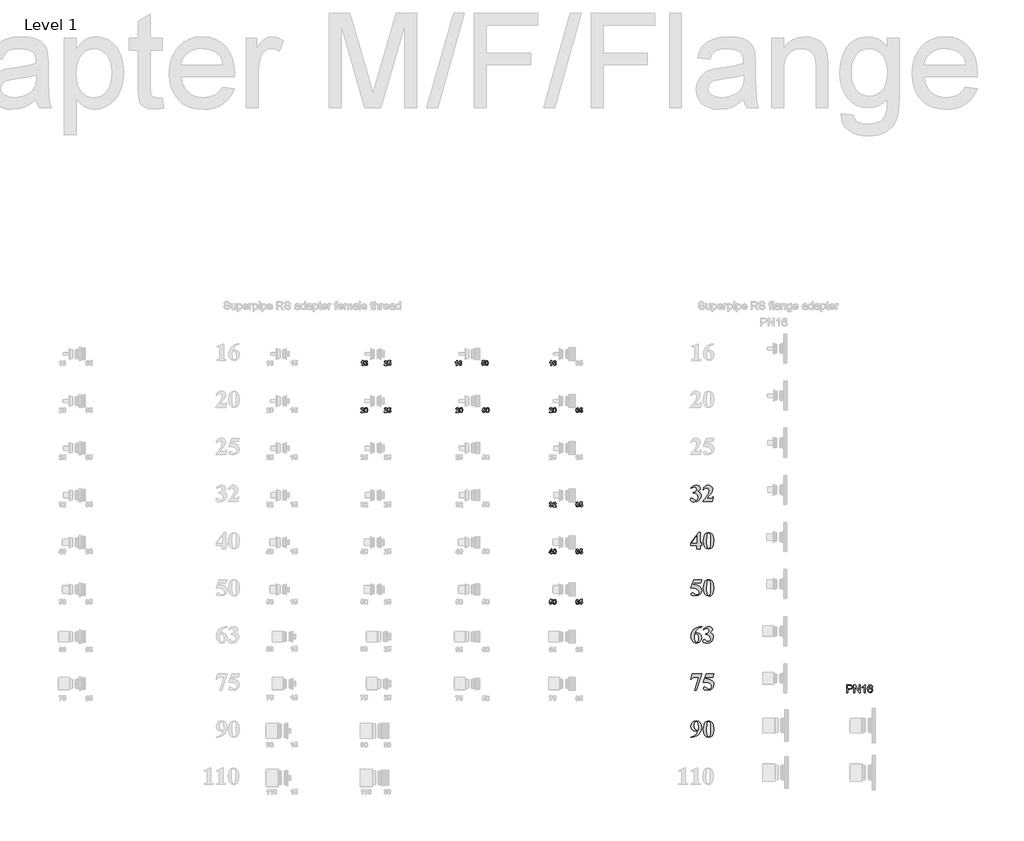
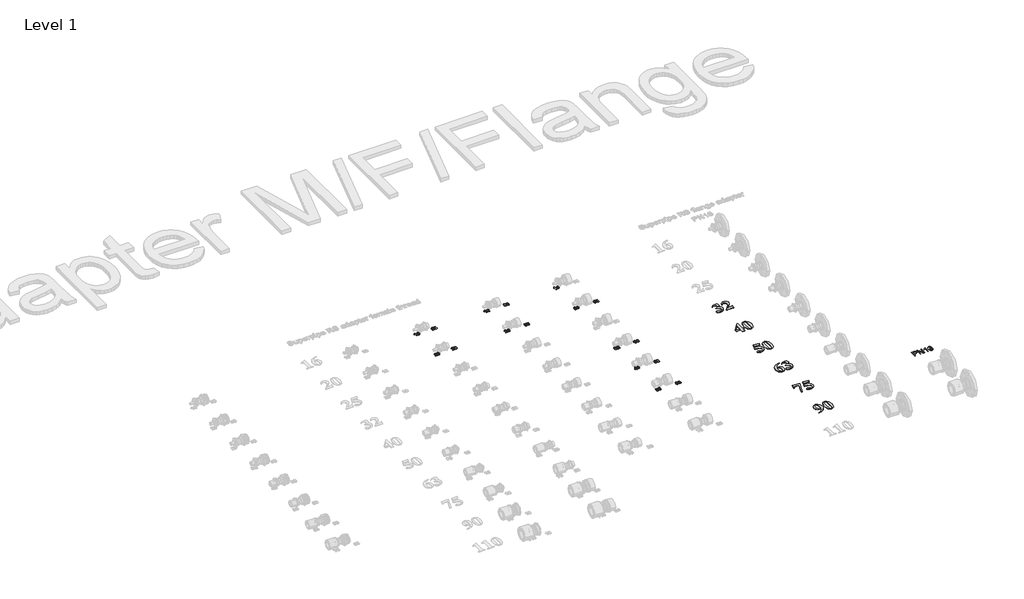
# One storey, part 47 of 57: 24 proxies.
"""IFC4 building model written with IfcOpenShell, lengths in millimetres."""

from ifc_helpers import new_model, si_unit, frame, origin, place, context, project, spatial, polyline, outline, extrude, element, save

model = new_model("IFC4")

# Units and contexts
model_context = context("Model", 3, world=origin())
ifc_project = project(units=[si_unit("LENGTHUNIT", "METRE", prefix="MILLI")], contexts=[model_context])

# Site, building, storey
site = spatial("IfcSite", under=ifc_project)
building = spatial("IfcBuilding", under=site)
storey = spatial("IfcBuildingStorey", under=building, Name="Level 1", Elevation=27.3876384)

# Proxies
placement = place(None, origin())
element("IfcBuildingElementProxy", 1, Name="100mm Arial", ObjectType="100mm Arial", at=placement, inside=storey, context=model_context, shape_type="SweptSolid", body=[
    extrude(outline(polyline([(34319.1420734, 17762.0336893), (34319.1420734, 17763.7786156), (34331.5746733, 17768.5907951), (34337.5592251, 17775.379649), (34340.0811889, 17784.6359377), (34335.3780673, 17795.773475), (34323.667976, 17800.4220677), (34313.6073853, 17797.9887135), (34305.1826631, 17790.6886508), (34303.4377368, 17791.6974363), (34317.8470109, 17806.0794459), (34337.436535, 17810.8916255), (34347.4869015, 17809.4397923), (34355.6083065, 17805.0842927), (34360.9759997, 17798.7861993), (34362.7652307, 17791.506585), (34358.7573531, 17781.7322713), (34346.1884309, 17773.4575036), (34362.4107926, 17762.1700117), (34366.6027053, 17754.6109365), (34368.0000096, 17745.3478316), (34365.0077337, 17729.585558), (34356.0309058, 17716.3793288), (34342.0305988, 17707.4331734), (34323.9678852, 17704.4511217), (34312.3668518, 17705.7325519), (34304.3919934, 17709.5768427), (34299.9478842, 17718.8740281), (34302.5243769, 17725.9491589), (34308.4816644, 17728.8800898), (34313.3347406, 17727.7895108), (34322.1956944, 17721.0551859), (34336.4822784, 17714.9206794), (34346.4065467, 17719.3784208), (34350.5507467, 17730.679545), (34348.5502159, 17740.6890148), (34342.5486238, 17749.8873665), (34332.6959247, 17757.3203435), (34319.1420734, 17762.0336893)])), frame((0.0, 0.0, 27.3876384), z_axis=(0.0, 0.0, 1.0), x_axis=(1.0, 0.0, 0.0)), (0.0, 0.0, 1.0), 2.0),
    extrude(outline(polyline([(34440.3326573, 17706.196048), (34378.4695674, 17706.196048), (34378.4695674, 17707.9409743), (34414.2405563, 17752.5456526), (34420.3477984, 17774.9297852), (34415.1266517, 17788.166687), (34402.3805104, 17793.4423626), (34391.3929277, 17790.5114317), (34383.1863212, 17781.718639), (34380.3780805, 17782.7274246), (34385.6367158, 17795.2281856), (34393.0696928, 17803.9937137), (34402.2475961, 17809.1671476), (34412.7410103, 17810.8916255), (34427.2729746, 17807.3063472), (34437.5653133, 17797.4911369), (34441.2869139, 17785.80831), (34435.7794903, 17765.6598643), (34423.7763059, 17749.1171451), (34402.871271, 17727.1351635), (34424.8464365, 17727.1351635), (34435.3841554, 17727.7349819), (34439.392033, 17729.7798174), (34443.5226007, 17735.8597949), (34446.5216927, 17735.8597949), (34440.3326573, 17706.196048)])), frame((0.0, 0.0, 27.3876384), z_axis=(0.0, 0.0, 1.0), x_axis=(1.0, 0.0, 0.0)), (0.0, 0.0, 1.0), 2.0),
])
element("IfcBuildingElementProxy", 2, Name="100mm Arial", ObjectType="100mm Arial", at=placement, inside=storey, context=model_context, shape_type="SweptSolid", body=[
    extrude(outline(polyline([(34303.4377368, 17444.5844264), (34352.7046401, 17510.8916255), (34362.7652307, 17510.8916255), (34362.7652307, 17444.5844264), (34371.4898622, 17444.5844264), (34371.4898622, 17428.8800898), (34362.7652307, 17428.8800898), (34362.7652307, 17406.196048), (34340.0811889, 17406.196048), (34340.0811889, 17428.8800898), (34303.4377368, 17428.8800898), (34303.4377368, 17444.5844264)]), holes=[polyline([(34308.7270446, 17444.5844264), (34340.0811889, 17444.5844264), (34340.0811889, 17486.7625666), (34308.7270446, 17444.5844264)])]), frame((0.0, 0.0, 27.3876384), z_axis=(0.0, 0.0, 1.0), x_axis=(1.0, 0.0, 0.0)), (0.0, 0.0, 1.0), 2.0),
    extrude(outline(polyline([(34450.0115453, 17457.6713736), (34445.5674362, 17429.0982056), (34438.4514086, 17415.7658781), (34428.3090246, 17407.5047427), (34415.9582182, 17404.4511217), (34402.1760269, 17408.213619), (34391.2838698, 17419.0103504), (34385.3129502, 17432.6425871), (34381.9594199, 17456.4717368), (34386.7852317, 17487.0624758), (34391.7746303, 17497.2491647), (34398.8361289, 17504.7434868), (34415.9582182, 17510.8916255), (34433.0939396, 17504.8252802), (34444.8040309, 17488.5074929), (34450.0115453, 17457.6713736)]), holes=[polyline([(34427.3275035, 17457.6713736), (34426.9730654, 17489.0255179), (34422.8561299, 17503.2303085), (34415.9036892, 17505.6568466), (34410.0690919, 17503.8301269), (34405.7613051, 17494.505677), (34404.6434617, 17447.8561632), (34406.3611236, 17418.6831767), (34410.0554597, 17411.498988), (34416.4217142, 17409.6859006), (34422.8561299, 17412.1124387), (34426.9730654, 17425.1721214), (34427.3275035, 17457.6713736)])]), frame((0.0, 0.0, 27.3876384), z_axis=(0.0, 0.0, 1.0), x_axis=(1.0, 0.0, 0.0)), (0.0, 0.0, 1.0), 2.0),
])
element("IfcBuildingElementProxy", 3, Name="100mm Arial", ObjectType="100mm Arial", at=placement, inside=storey, context=model_context, shape_type="SweptSolid", body=[
    extrude(outline(polyline([(34322.631926, 17209.1466992), (34371.4898622, 17209.1466992), (34364.510157, 17188.2075837), (34320.2326524, 17188.2075837), (34317.042709, 17179.4829522), (34341.3353547, 17175.7068227), (34359.3026426, 17166.3414761), (34368.4430573, 17155.0880647), (34371.4898622, 17141.394483), (34365.7915873, 17122.6910543), (34350.0736184, 17109.0042887), (34328.0848207, 17104.4511217), (34308.2635486, 17109.249669), (34303.4377368, 17116.9655149), (34305.9597006, 17122.8410089), (34311.8351946, 17125.3902372), (34317.9697011, 17124.0815425), (34328.6028457, 17117.1836307), (34336.7821877, 17112.4123479), (34342.2078178, 17111.4308268), (34353.0590782, 17115.9976261), (34357.5304518, 17126.9715766), (34354.1360249, 17139.0088416), (34343.9527441, 17148.5650395), (34328.5960295, 17154.8017878), (34309.6813012, 17156.8807039), (34303.4377368, 17156.7989104), (34322.631926, 17209.1466992)])), frame((0.0, 0.0, 27.3876384), z_axis=(0.0, 0.0, 1.0), x_axis=(1.0, 0.0, 0.0)), (0.0, 0.0, 1.0), 2.0),
    extrude(outline(polyline([(34450.0115453, 17157.6713736), (34445.5674362, 17129.0982056), (34438.4514086, 17115.7658781), (34428.3090246, 17107.5047427), (34415.9582182, 17104.4511217), (34402.1760269, 17108.213619), (34391.2838698, 17119.0103504), (34385.3129502, 17132.6425871), (34381.9594199, 17156.4717368), (34386.7852317, 17187.0624758), (34391.7746303, 17197.2491647), (34398.8361289, 17204.7434868), (34415.9582182, 17210.8916255), (34433.0939396, 17204.8252802), (34444.8040309, 17188.5074929), (34450.0115453, 17157.6713736)]), holes=[polyline([(34427.3275035, 17157.6713736), (34426.9730654, 17189.0255179), (34422.8561299, 17203.2303085), (34415.9036892, 17205.6568466), (34410.0690919, 17203.8301269), (34405.7613051, 17194.505677), (34404.6434617, 17147.8561632), (34406.3611236, 17118.6831767), (34410.0554597, 17111.498988), (34416.4217142, 17109.6859006), (34422.8561299, 17112.1124387), (34426.9730654, 17125.1721214), (34427.3275035, 17157.6713736)])]), frame((0.0, 0.0, 27.3876384), z_axis=(0.0, 0.0, 1.0), x_axis=(1.0, 0.0, 0.0)), (0.0, 0.0, 1.0), 2.0),
])
element("IfcBuildingElementProxy", 4, Name="100mm Arial", ObjectType="100mm Arial", at=placement, inside=storey, context=model_context, shape_type="SweptSolid", body=[
    extrude(outline(polyline([(34371.4898622, 16910.8916255), (34371.4898622, 16909.1466992), (34349.4738, 16900.0676296), (34336.3595883, 16886.5717153), (34328.9027549, 16866.91403), (34334.4647074, 16869.4496261), (34344.4435047, 16870.7583208), (34355.0664251, 16868.7032611), (34363.760384, 16862.5380821), (34369.5574926, 16852.8285215), (34371.4898622, 16840.1403172), (34367.2502366, 16821.8458556), (34355.2266039, 16808.9906565), (34338.5816429, 16804.4511217), (34320.7779418, 16809.6313716), (34308.0181683, 16824.804051), (34303.4377368, 16846.520204), (34305.5405093, 16863.1481247), (34311.8488268, 16878.5150634), (34322.0252915, 16891.7519652), (34335.7325054, 16901.989775), (34352.4081389, 16908.5843694), (34371.4898622, 16910.8916255)]), holes=[polyline([(34327.8667049, 16861.2975485), (34326.1217786, 16846.1112369), (34328.3165687, 16826.0582168), (34334.3283851, 16812.4668768), (34340.7900652, 16809.6859006), (34347.5652869, 16813.7074104), (34350.5507467, 16830.0524621), (34349.2284197, 16847.5698862), (34345.2614389, 16858.6801591), (34336.0733113, 16863.7786156), (34327.8667049, 16861.2975485)])]), frame((0.0, 0.0, 27.3876384), z_axis=(0.0, 0.0, 1.0), x_axis=(1.0, 0.0, 0.0)), (0.0, 0.0, 1.0), 2.0),
    extrude(outline(polyline([(34397.6637566, 16862.0336893), (34397.6637566, 16863.7786156), (34410.0963564, 16868.5907951), (34416.0809083, 16875.379649), (34418.6028721, 16884.6359377), (34413.8997504, 16895.773475), (34402.1896591, 16900.4220677), (34392.1290685, 16897.9887135), (34383.7043462, 16890.6886508), (34381.9594199, 16891.6974363), (34396.3686941, 16906.0794459), (34415.9582182, 16910.8916255), (34426.0085846, 16909.4397923), (34434.1299896, 16905.0842927), (34439.4976828, 16898.7861993), (34441.2869139, 16891.506585), (34437.2790363, 16881.7322713), (34424.7101141, 16873.4575036), (34440.9324757, 16862.1700117), (34445.1243885, 16854.6109365), (34446.5216927, 16845.3478316), (34443.5294168, 16829.585558), (34434.552589, 16816.3793288), (34420.5522819, 16807.4331734), (34402.4895683, 16804.4511217), (34390.8885349, 16805.7325519), (34382.9136765, 16809.5768427), (34378.4695674, 16818.8740281), (34381.0460601, 16825.9491589), (34387.0033475, 16828.8800898), (34391.8564237, 16827.7895108), (34400.7173776, 16821.0551859), (34415.0039616, 16814.9206794), (34424.9282299, 16819.3784208), (34429.0724298, 16830.679545), (34427.0718991, 16840.6890148), (34421.0703069, 16849.8873665), (34411.2176079, 16857.3203435), (34397.6637566, 16862.0336893)])), frame((0.0, 0.0, 27.3876384), z_axis=(0.0, 0.0, 1.0), x_axis=(1.0, 0.0, 0.0)), (0.0, 0.0, 1.0), 2.0),
])
element("IfcBuildingElementProxy", 5, Name="100mm Arial", ObjectType="100mm Arial", at=placement, inside=storey, context=model_context, shape_type="SweptSolid", body=[
    extrude(outline(polyline([(34326.0945141, 16506.196048), (34354.5040953, 16588.2075837), (34332.8561035, 16588.2075837), (34313.7437077, 16584.8540535), (34306.3550354, 16575.9930996), (34303.4377368, 16575.9930996), (34310.935467, 16609.1466992), (34372.7167635, 16609.1466992), (34336.2914271, 16506.196048), (34326.0945141, 16506.196048)])), frame((0.0, 0.0, 27.3876384), z_axis=(0.0, 0.0, 1.0), x_axis=(1.0, 0.0, 0.0)), (0.0, 0.0, 1.0), 2.0),
    extrude(outline(polyline([(34401.1536091, 16609.1466992), (34450.0115453, 16609.1466992), (34443.0318402, 16588.2075837), (34398.7543355, 16588.2075837), (34395.5643921, 16579.4829522), (34419.8570378, 16575.7068227), (34437.8243258, 16566.3414761), (34446.9647404, 16555.0880647), (34450.0115453, 16541.394483), (34444.3132704, 16522.6910543), (34428.5953015, 16509.0042887), (34406.6065038, 16504.4511217), (34386.7852317, 16509.249669), (34381.9594199, 16516.9655149), (34384.4813837, 16522.8410089), (34390.3568777, 16525.3902372), (34396.4913842, 16524.0815425), (34407.1245288, 16517.1836307), (34415.3038708, 16512.4123479), (34420.729501, 16511.4308268), (34431.5807614, 16515.9976261), (34436.052135, 16526.9715766), (34432.6577081, 16539.0088416), (34422.4744273, 16548.5650395), (34407.1177127, 16554.8017878), (34388.2029843, 16556.8807039), (34381.9594199, 16556.7989104), (34401.1536091, 16609.1466992)])), frame((0.0, 0.0, 27.3876384), z_axis=(0.0, 0.0, 1.0), x_axis=(1.0, 0.0, 0.0)), (0.0, 0.0, 1.0), 2.0),
])
element("IfcBuildingElementProxy", 6, Name="100mm Arial", ObjectType="100mm Arial", at=placement, inside=storey, context=model_context, shape_type="SweptSolid", body=[
    extrude(outline(polyline([(34303.4377368, 16204.4511217), (34303.4377368, 16206.196048), (34325.6310181, 16214.8116215), (34340.0675567, 16228.9073542), (34347.5243901, 16248.2378658), (34339.1678291, 16245.3887284), (34331.9018469, 16244.5844264), (34320.7097806, 16246.6394861), (34311.5625498, 16252.8046651), (34305.4689401, 16262.5483062), (34303.4377368, 16275.3387523), (34307.7046269, 16293.524156), (34319.8918464, 16306.3384584), (34336.3459561, 16310.8916255), (34353.6588966, 16305.7659045), (34366.6504182, 16290.9203988), (34371.4898622, 16268.7407497), (34369.5268201, 16252.9614358), (34363.6376939, 16237.8501015), (34353.8599721, 16224.5348143), (34340.2311435, 16214.1436419), (34323.2556008, 16207.2559544), (34303.4377368, 16204.4511217)]), holes=[polyline([(34348.8058204, 16253.9634052), (34348.8058204, 16268.7952787), (34345.3159678, 16294.3420902), (34339.454106, 16303.9937137), (34334.0557403, 16305.6568466), (34327.5940601, 16302.4123743), (34324.3768523, 16285.4538719), (34325.7877888, 16267.834206), (34330.0205983, 16256.6898525), (34339.972131, 16251.5641316), (34348.8058204, 16253.9634052)])]), frame((0.0, 0.0, 27.3876384), z_axis=(0.0, 0.0, 1.0), x_axis=(1.0, 0.0, 0.0)), (0.0, 0.0, 1.0), 2.0),
    extrude(outline(polyline([(34450.0115453, 16257.6713736), (34445.5674362, 16229.0982056), (34438.4514086, 16215.7658781), (34428.3090246, 16207.5047427), (34415.9582182, 16204.4511217), (34402.1760269, 16208.213619), (34391.2838698, 16219.0103504), (34385.3129502, 16232.6425871), (34381.9594199, 16256.4717368), (34386.7852317, 16287.0624758), (34391.7746303, 16297.2491647), (34398.8361289, 16304.7434868), (34415.9582182, 16310.8916255), (34433.0939396, 16304.8252802), (34444.8040309, 16288.5074929), (34450.0115453, 16257.6713736)]), holes=[polyline([(34427.3275035, 16257.6713736), (34426.9730654, 16289.0255179), (34422.8561299, 16303.2303085), (34415.9036892, 16305.6568466), (34410.0690919, 16303.8301269), (34405.7613051, 16294.505677), (34404.6434617, 16247.8561632), (34406.3611236, 16218.6831767), (34410.0554597, 16211.498988), (34416.4217142, 16209.6859006), (34422.8561299, 16212.1124387), (34426.9730654, 16225.1721214), (34427.3275035, 16257.6713736)])]), frame((0.0, 0.0, 27.3876384), z_axis=(0.0, 0.0, 1.0), x_axis=(1.0, 0.0, 0.0)), (0.0, 0.0, 1.0), 2.0),
])
element("IfcBuildingElementProxy", 7, Name="30mm Arial", ObjectType="30mm Arial", at=placement, inside=storey, context=model_context, shape_type="SweptSolid", body=[
    extrude(outline(polyline([(32217.1703597, 18573.5788539), (32211.340306, 18573.5788539), (32211.340306, 18595.4567378), (32204.0527389, 18590.5831773), (32204.0527389, 18596.413231), (32208.9187082, 18599.2713237), (32212.5245357, 18604.1866359), (32217.1703597, 18604.1866359), (32217.1703597, 18573.5788539)])), frame((0.0, 0.0, 27.3876384), z_axis=(0.0, 0.0, 1.0), x_axis=(1.0, 0.0, 0.0)), (0.0, 0.0, 1.0), 2.0),
    extrude(outline(polyline([(32244.8631149, 18596.0640351), (32239.0330612, 18595.4415554), (32238.0006558, 18598.0111819), (32235.8295681, 18598.84242), (32232.8386291, 18597.2292867), (32231.2976123, 18590.4541266), (32236.6266458, 18593.0123663), (32242.7869174, 18590.2795286), (32245.3489527, 18583.2272892), (32242.7299832, 18575.8676055), (32235.9965749, 18573.0930161), (32228.754555, 18576.67607), (32225.9154403, 18588.4196808), (32228.8798101, 18600.4897138), (32236.5810985, 18604.1866359), (32242.0847299, 18602.1066428), (32244.8631149, 18596.0640351)]), holes=[polyline([(32231.745494, 18583.3563398), (32233.0056358, 18579.7163519), (32235.8827066, 18578.437232), (32238.4789024, 18579.4848198), (32239.518899, 18582.9236405), (32238.3991946, 18586.5256724), (32235.6018316, 18587.6681504), (32232.8651983, 18586.5750153), (32231.745494, 18583.3563398)])]), frame((0.0, 0.0, 27.3876384), z_axis=(0.0, 0.0, 1.0), x_axis=(1.0, 0.0, 0.0)), (0.0, 0.0, 1.0), 2.0),
])
element("IfcBuildingElementProxy", 8, Name="30mm Arial", ObjectType="30mm Arial", at=placement, inside=storey, context=model_context, shape_type="SweptSolid", body=[
    extrude(outline(polyline([(32370.7787378, 18579.4089076), (32370.7787378, 18573.5788539), (32351.3452254, 18573.5788539), (32353.2050733, 18579.298835), (32359.316002, 18586.4687383), (32363.8251842, 18591.3574813), (32364.9486841, 18594.864623), (32364.0035777, 18597.8138103), (32361.3959951, 18598.84242), (32358.7846169, 18597.8289927), (32357.661117, 18594.4698797), (32351.8310633, 18595.0012648), (32354.9586442, 18602.0497087), (32361.5250458, 18604.1866359), (32368.3115927, 18601.7916074), (32370.7787378, 18595.8362986), (32370.1031196, 18591.979961), (32367.9623968, 18588.146397), (32364.3375912, 18584.3204243), (32361.0088431, 18581.003063), (32359.9157081, 18579.4089076), (32370.7787378, 18579.4089076)])), frame((0.0, 0.0, 27.3876384), z_axis=(0.0, 0.0, 1.0), x_axis=(1.0, 0.0, 0.0)), (0.0, 0.0, 1.0), 2.0),
    extrude(outline(polyline([(32374.6654403, 18582.1948838), (32380.0096562, 18582.8097723), (32381.4975345, 18579.6138705), (32384.3518316, 18578.437232), (32387.4756169, 18579.685987), (32388.7547368, 18583.4474344), (32387.5667115, 18586.9773498), (32384.4732911, 18588.1539882), (32380.2070278, 18585.7247992), (32375.1512781, 18586.4763295), (32378.5521428, 18603.7007981), (32393.1272771, 18603.7007981), (32393.1272771, 18597.8707444), (32383.2662878, 18597.8707444), (32382.0896493, 18592.3063832), (32385.8473011, 18593.4982041), (32392.0417332, 18590.7387972), (32394.5847905, 18583.5764851), (32392.4668413, 18577.0252659), (32384.4429262, 18573.0930161), (32377.7588607, 18575.5601612), (32374.6654403, 18582.1948838)])), frame((0.0, 0.0, 27.3876384), z_axis=(0.0, 0.0, 1.0), x_axis=(1.0, 0.0, 0.0)), (0.0, 0.0, 1.0), 2.0),
])
element("IfcBuildingElementProxy", 9, Name="30mm Arial", ObjectType="30mm Arial", at=placement, inside=storey, context=model_context, shape_type="SweptSolid", body=[
    extrude(outline(polyline([(32817.1703597, 18573.5788539), (32811.340306, 18573.5788539), (32811.340306, 18595.4567378), (32804.0527389, 18590.5831773), (32804.0527389, 18596.413231), (32808.9187082, 18599.2713237), (32812.5245357, 18604.1866359), (32817.1703597, 18604.1866359), (32817.1703597, 18573.5788539)])), frame((0.0, 0.0, 27.3876384), z_axis=(0.0, 0.0, 1.0), x_axis=(1.0, 0.0, 0.0)), (0.0, 0.0, 1.0), 2.0),
    extrude(outline(polyline([(32844.8631149, 18596.0640351), (32839.0330612, 18595.4415554), (32838.0006558, 18598.0111819), (32835.8295681, 18598.84242), (32832.8386291, 18597.2292867), (32831.2976123, 18590.4541266), (32836.6266458, 18593.0123663), (32842.7869174, 18590.2795286), (32845.3489527, 18583.2272892), (32842.7299832, 18575.8676055), (32835.9965749, 18573.0930161), (32828.754555, 18576.67607), (32825.9154403, 18588.4196808), (32828.8798101, 18600.4897138), (32836.5810985, 18604.1866359), (32842.0847299, 18602.1066428), (32844.8631149, 18596.0640351)]), holes=[polyline([(32831.745494, 18583.3563398), (32833.0056358, 18579.7163519), (32835.8827066, 18578.437232), (32838.4789024, 18579.4848198), (32839.518899, 18582.9236405), (32838.3991946, 18586.5256724), (32835.6018316, 18587.6681504), (32832.8651983, 18586.5750153), (32831.745494, 18583.3563398)])]), frame((0.0, 0.0, 27.3876384), z_axis=(0.0, 0.0, 1.0), x_axis=(1.0, 0.0, 0.0)), (0.0, 0.0, 1.0), 2.0),
])
element("IfcBuildingElementProxy", 10, Name="30mm Arial", ObjectType="30mm Arial", at=placement, inside=storey, context=model_context, shape_type="SweptSolid", body=[
    extrude(outline(polyline([(32971.3452254, 18582.1948838), (32976.6894414, 18582.8097723), (32978.1773196, 18579.6138705), (32981.0316168, 18578.437232), (32984.1554021, 18579.685987), (32985.4345219, 18583.4474344), (32984.2464967, 18586.9773498), (32981.1530762, 18588.1539882), (32976.886813, 18585.7247992), (32971.8310633, 18586.4763295), (32975.2319279, 18603.7007981), (32989.8070622, 18603.7007981), (32989.8070622, 18597.8707444), (32979.9460729, 18597.8707444), (32978.7694345, 18592.3063832), (32982.5270863, 18593.4982041), (32988.7215184, 18590.7387972), (32991.2645756, 18583.5764851), (32989.1466264, 18577.0252659), (32981.1227114, 18573.0930161), (32974.4386459, 18575.5601612), (32971.3452254, 18582.1948838)])), frame((0.0, 0.0, 27.3876384), z_axis=(0.0, 0.0, 1.0), x_axis=(1.0, 0.0, 0.0)), (0.0, 0.0, 1.0), 2.0),
    extrude(outline(polyline([(33004.3821965, 18604.1866359), (33011.1763346, 18601.0286902), (33014.0989527, 18588.6322348), (33011.1611522, 18576.2054146), (33004.3821965, 18573.0930161), (32997.3413439, 18576.5090632), (32994.6654403, 18588.6929645), (32997.6032408, 18601.0742375), (33004.3821965, 18604.1866359)]), holes=[polyline([(33004.3821965, 18598.84242), (33002.4388453, 18598.2009623), (33001.1179737, 18595.8970283), (33000.495494, 18588.6322348), (33001.0496528, 18581.6141558), (33002.4502321, 18579.0710985), (33004.3821965, 18578.437232), (33006.3255477, 18579.0786898), (33007.6464193, 18581.3826237), (33008.268899, 18588.6322348), (33007.7147402, 18595.6465182), (33006.3141609, 18598.2009623), (33004.3821965, 18598.84242)])]), frame((0.0, 0.0, 27.3876384), z_axis=(0.0, 0.0, 1.0), x_axis=(1.0, 0.0, 0.0)), (0.0, 0.0, 1.0), 2.0),
])
element("IfcBuildingElementProxy", 11, Name="30mm Arial", ObjectType="30mm Arial", at=placement, inside=storey, context=model_context, shape_type="SweptSolid", body=[
    extrude(outline(polyline([(32827.0287378, 18279.4089076), (32827.0287378, 18273.5788539), (32807.5952254, 18273.5788539), (32809.4550733, 18279.298835), (32815.566002, 18286.4687383), (32820.0751842, 18291.3574813), (32821.1986841, 18294.864623), (32820.2535777, 18297.8138103), (32817.6459951, 18298.84242), (32815.0346169, 18297.8289927), (32813.911117, 18294.4698797), (32808.0810633, 18295.0012648), (32811.2086442, 18302.0497087), (32817.7750458, 18304.1866359), (32824.5615927, 18301.7916074), (32827.0287378, 18295.8362986), (32826.3531196, 18291.979961), (32824.2123968, 18288.146397), (32820.5875912, 18284.3204243), (32817.2588431, 18281.003063), (32816.1657081, 18279.4089076), (32827.0287378, 18279.4089076)])), frame((0.0, 0.0, 27.3876384), z_axis=(0.0, 0.0, 1.0), x_axis=(1.0, 0.0, 0.0)), (0.0, 0.0, 1.0), 2.0),
    extrude(outline(polyline([(32840.6321965, 18304.1866359), (32847.4263346, 18301.0286902), (32850.3489527, 18288.6322348), (32847.4111522, 18276.2054146), (32840.6321965, 18273.0930161), (32833.5913439, 18276.5090632), (32830.9154403, 18288.6929645), (32833.8532408, 18301.0742375), (32840.6321965, 18304.1866359)]), holes=[polyline([(32840.6321965, 18298.84242), (32838.6888453, 18298.2009623), (32837.3679737, 18295.8970283), (32836.745494, 18288.6322348), (32837.2996528, 18281.6141558), (32838.7002321, 18279.0710985), (32840.6321965, 18278.437232), (32842.5755477, 18279.0786898), (32843.8964193, 18281.3826237), (32844.518899, 18288.6322348), (32843.9647402, 18295.6465182), (32842.5641609, 18298.2009623), (32840.6321965, 18298.84242)])]), frame((0.0, 0.0, 27.3876384), z_axis=(0.0, 0.0, 1.0), x_axis=(1.0, 0.0, 0.0)), (0.0, 0.0, 1.0), 2.0),
])
element("IfcBuildingElementProxy", 12, Name="30mm Arial", ObjectType="30mm Arial", at=placement, inside=storey, context=model_context, shape_type="SweptSolid", body=[
    extrude(outline(polyline([(32976.3452254, 18282.1948838), (32981.6894414, 18282.8097723), (32983.1773196, 18279.6138705), (32986.0316168, 18278.437232), (32989.1554021, 18279.685987), (32990.4345219, 18283.4474344), (32989.2464967, 18286.9773498), (32986.1530762, 18288.1539882), (32981.886813, 18285.7247992), (32976.8310633, 18286.4763295), (32980.2319279, 18303.7007981), (32994.8070622, 18303.7007981), (32994.8070622, 18297.8707444), (32984.9460729, 18297.8707444), (32983.7694345, 18292.3063832), (32987.5270863, 18293.4982041), (32993.7215184, 18290.7387972), (32996.2645756, 18283.5764851), (32994.1466264, 18277.0252659), (32986.1227114, 18273.0930161), (32979.4386459, 18275.5601612), (32976.3452254, 18282.1948838)])), frame((0.0, 0.0, 27.3876384), z_axis=(0.0, 0.0, 1.0), x_axis=(1.0, 0.0, 0.0)), (0.0, 0.0, 1.0), 2.0),
    extrude(outline(polyline([(33009.3821965, 18304.1866359), (33016.1763346, 18301.0286902), (33019.0989527, 18288.6322348), (33016.1611522, 18276.2054146), (33009.3821965, 18273.0930161), (33002.3413439, 18276.5090632), (32999.6654403, 18288.6929645), (33002.6032408, 18301.0742375), (33009.3821965, 18304.1866359)]), holes=[polyline([(33009.3821965, 18298.84242), (33007.4388453, 18298.2009623), (33006.1179737, 18295.8970283), (33005.495494, 18288.6322348), (33006.0496528, 18281.6141558), (33007.4502321, 18279.0710985), (33009.3821965, 18278.437232), (33011.3255477, 18279.0786898), (33012.6464193, 18281.3826237), (33013.268899, 18288.6322348), (33012.7147402, 18295.6465182), (33011.3141609, 18298.2009623), (33009.3821965, 18298.84242)])]), frame((0.0, 0.0, 27.3876384), z_axis=(0.0, 0.0, 1.0), x_axis=(1.0, 0.0, 0.0)), (0.0, 0.0, 1.0), 2.0),
])
element("IfcBuildingElementProxy", 13, Name="30mm Arial", ObjectType="30mm Arial", at=placement, inside=storey, context=model_context, shape_type="SweptSolid", body=[
    extrude(outline(polyline([(33422.0287378, 18279.4089076), (33422.0287378, 18273.5788539), (33402.5952254, 18273.5788539), (33404.4550733, 18279.298835), (33410.566002, 18286.4687383), (33415.0751842, 18291.3574813), (33416.1986841, 18294.864623), (33415.2535777, 18297.8138103), (33412.6459951, 18298.84242), (33410.0346169, 18297.8289927), (33408.911117, 18294.4698797), (33403.0810633, 18295.0012648), (33406.2086442, 18302.0497087), (33412.7750458, 18304.1866359), (33419.5615927, 18301.7916074), (33422.0287378, 18295.8362986), (33421.3531196, 18291.979961), (33419.2123968, 18288.146397), (33415.5875912, 18284.3204243), (33412.2588431, 18281.003063), (33411.1657081, 18279.4089076), (33422.0287378, 18279.4089076)])), frame((0.0, 0.0, 27.3876384), z_axis=(0.0, 0.0, 1.0), x_axis=(1.0, 0.0, 0.0)), (0.0, 0.0, 1.0), 2.0),
    extrude(outline(polyline([(33435.6321965, 18304.1866359), (33442.4263346, 18301.0286902), (33445.3489527, 18288.6322348), (33442.4111522, 18276.2054146), (33435.6321965, 18273.0930161), (33428.5913439, 18276.5090632), (33425.9154403, 18288.6929645), (33428.8532408, 18301.0742375), (33435.6321965, 18304.1866359)]), holes=[polyline([(33435.6321965, 18298.84242), (33433.6888453, 18298.2009623), (33432.3679737, 18295.8970283), (33431.745494, 18288.6322348), (33432.2996528, 18281.6141558), (33433.7002321, 18279.0710985), (33435.6321965, 18278.437232), (33437.5755477, 18279.0786898), (33438.8964193, 18281.3826237), (33439.518899, 18288.6322348), (33438.9647402, 18295.6465182), (33437.5641609, 18298.2009623), (33435.6321965, 18298.84242)])]), frame((0.0, 0.0, 27.3876384), z_axis=(0.0, 0.0, 1.0), x_axis=(1.0, 0.0, 0.0)), (0.0, 0.0, 1.0), 2.0),
])
element("IfcBuildingElementProxy", 14, Name="30mm Arial", ObjectType="30mm Arial", at=placement, inside=storey, context=model_context, shape_type="SweptSolid", body=[
    extrude(outline(polyline([(33590.2929, 18296.0640351), (33584.4628463, 18295.4415554), (33583.430441, 18298.0111819), (33581.2593532, 18298.84242), (33578.2684142, 18297.2292867), (33576.7273974, 18290.4541266), (33582.0564309, 18293.0123663), (33588.2167025, 18290.2795286), (33590.7787378, 18283.2272892), (33588.1597684, 18275.8676055), (33581.42636, 18273.0930161), (33574.1843401, 18276.67607), (33571.3452254, 18288.4196808), (33574.3095952, 18300.4897138), (33582.0108836, 18304.1866359), (33587.514515, 18302.1066428), (33590.2929, 18296.0640351)]), holes=[polyline([(33577.1752792, 18283.3563398), (33578.435421, 18279.7163519), (33581.3124918, 18278.437232), (33583.9086876, 18279.4848198), (33584.9486841, 18282.9236405), (33583.8289798, 18286.5256724), (33581.0316168, 18287.6681504), (33578.2949835, 18286.5750153), (33577.1752792, 18283.3563398)])]), frame((0.0, 0.0, 27.3876384), z_axis=(0.0, 0.0, 1.0), x_axis=(1.0, 0.0, 0.0)), (0.0, 0.0, 1.0), 2.0),
    extrude(outline(polyline([(33594.6654403, 18282.1948838), (33600.0096562, 18282.8097723), (33601.4975345, 18279.6138705), (33604.3518316, 18278.437232), (33607.4756169, 18279.685987), (33608.7547368, 18283.4474344), (33607.5667115, 18286.9773498), (33604.4732911, 18288.1539882), (33600.2070278, 18285.7247992), (33595.1512781, 18286.4763295), (33598.5521428, 18303.7007981), (33613.1272771, 18303.7007981), (33613.1272771, 18297.8707444), (33603.2662878, 18297.8707444), (33602.0896493, 18292.3063832), (33605.8473011, 18293.4982041), (33612.0417332, 18290.7387972), (33614.5847905, 18283.5764851), (33612.4668413, 18277.0252659), (33604.4429262, 18273.0930161), (33597.7588607, 18275.5601612), (33594.6654403, 18282.1948838)])), frame((0.0, 0.0, 27.3876384), z_axis=(0.0, 0.0, 1.0), x_axis=(1.0, 0.0, 0.0)), (0.0, 0.0, 1.0), 2.0),
])
element("IfcBuildingElementProxy", 15, Name="30mm Arial", ObjectType="30mm Arial", at=placement, inside=storey, context=model_context, shape_type="SweptSolid", body=[
    extrude(outline(polyline([(33417.1703597, 18573.5788539), (33411.340306, 18573.5788539), (33411.340306, 18595.4567378), (33404.0527389, 18590.5831773), (33404.0527389, 18596.413231), (33408.9187082, 18599.2713237), (33412.5245357, 18604.1866359), (33417.1703597, 18604.1866359), (33417.1703597, 18573.5788539)])), frame((0.0, 0.0, 27.3876384), z_axis=(0.0, 0.0, 1.0), x_axis=(1.0, 0.0, 0.0)), (0.0, 0.0, 1.0), 2.0),
    extrude(outline(polyline([(33444.8631149, 18596.0640351), (33439.0330612, 18595.4415554), (33438.0006558, 18598.0111819), (33435.8295681, 18598.84242), (33432.8386291, 18597.2292867), (33431.2976123, 18590.4541266), (33436.6266458, 18593.0123663), (33442.7869174, 18590.2795286), (33445.3489527, 18583.2272892), (33442.7299832, 18575.8676055), (33435.9965749, 18573.0930161), (33428.754555, 18576.67607), (33425.9154403, 18588.4196808), (33428.8798101, 18600.4897138), (33436.5810985, 18604.1866359), (33442.0847299, 18602.1066428), (33444.8631149, 18596.0640351)]), holes=[polyline([(33431.745494, 18583.3563398), (33433.0056358, 18579.7163519), (33435.8827066, 18578.437232), (33438.4789024, 18579.4848198), (33439.518899, 18582.9236405), (33438.3991946, 18586.5256724), (33435.6018316, 18587.6681504), (33432.8651983, 18586.5750153), (33431.745494, 18583.3563398)])]), frame((0.0, 0.0, 27.3876384), z_axis=(0.0, 0.0, 1.0), x_axis=(1.0, 0.0, 0.0)), (0.0, 0.0, 1.0), 2.0),
])
element("IfcBuildingElementProxy", 16, Name="30mm Arial", ObjectType="30mm Arial", at=placement, inside=storey, context=model_context, shape_type="SweptSolid", body=[
    extrude(outline(polyline([(33402.5952254, 17682.1341541), (33408.4252792, 17682.8097723), (33409.7385595, 17679.560732), (33412.3271641, 17678.437232), (33415.0827754, 17679.7239431), (33416.1986841, 17683.1893331), (33415.1776656, 17686.4611471), (33412.6839512, 17687.6681504), (33410.3686304, 17687.2354511), (33410.8772419, 17692.0406907), (33413.750517, 17692.9971839), (33414.7411707, 17695.6996567), (33414.0010271, 17697.9884083), (33412.0311067, 17698.84242), (33409.9549091, 17697.8517664), (33408.911117, 17694.9557175), (33403.0810633, 17695.8287074), (33404.6866054, 17700.4631446), (33407.6851356, 17703.1921867), (33411.9931506, 17704.1866359), (33418.5367786, 17701.4310246), (33420.5712244, 17696.3297276), (33416.2062753, 17689.8999678), (33420.4421737, 17687.3986622), (33422.0287378, 17682.7034953), (33419.2161924, 17675.9055616), (33412.2132958, 17673.0930161), (33405.6279161, 17675.5943217), (33402.5952254, 17682.1341541)])), frame((0.0, 0.0, 27.3876384), z_axis=(0.0, 0.0, 1.0), x_axis=(1.0, 0.0, 0.0)), (0.0, 0.0, 1.0), 2.0),
    extrude(outline(polyline([(33445.3489527, 17679.4089076), (33445.3489527, 17673.5788539), (33425.9154403, 17673.5788539), (33427.7752882, 17679.298835), (33433.8862169, 17686.4687383), (33438.395399, 17691.3574813), (33439.518899, 17694.864623), (33438.5737926, 17697.8138103), (33435.96621, 17698.84242), (33433.3548318, 17697.8289927), (33432.2313318, 17694.4698797), (33426.4012781, 17695.0012648), (33429.528859, 17702.0497087), (33436.0952607, 17704.1866359), (33442.8818076, 17701.7916074), (33445.3489527, 17695.8362986), (33444.6733345, 17691.979961), (33442.5326116, 17688.146397), (33438.9078061, 17684.3204243), (33435.579058, 17681.003063), (33434.4859229, 17679.4089076), (33445.3489527, 17679.4089076)])), frame((0.0, 0.0, 27.3876384), z_axis=(0.0, 0.0, 1.0), x_axis=(1.0, 0.0, 0.0)), (0.0, 0.0, 1.0), 2.0),
])
element("IfcBuildingElementProxy", 17, Name="30mm Arial", ObjectType="30mm Arial", at=placement, inside=storey, context=model_context, shape_type="SweptSolid", body=[
    extrude(outline(polyline([(33590.2929, 17696.0640351), (33584.4628463, 17695.4415554), (33583.430441, 17698.0111819), (33581.2593532, 17698.84242), (33578.2684142, 17697.2292867), (33576.7273974, 17690.4541266), (33582.0564309, 17693.0123663), (33588.2167025, 17690.2795286), (33590.7787378, 17683.2272892), (33588.1597684, 17675.8676055), (33581.42636, 17673.0930161), (33574.1843401, 17676.67607), (33571.3452254, 17688.4196808), (33574.3095952, 17700.4897138), (33582.0108836, 17704.1866359), (33587.514515, 17702.1066428), (33590.2929, 17696.0640351)]), holes=[polyline([(33577.1752792, 17683.3563398), (33578.435421, 17679.7163519), (33581.3124918, 17678.437232), (33583.9086876, 17679.4848198), (33584.9486841, 17682.9236405), (33583.8289798, 17686.5256724), (33581.0316168, 17687.6681504), (33578.2949835, 17686.5750153), (33577.1752792, 17683.3563398)])]), frame((0.0, 0.0, 27.3876384), z_axis=(0.0, 0.0, 1.0), x_axis=(1.0, 0.0, 0.0)), (0.0, 0.0, 1.0), 2.0),
    extrude(outline(polyline([(33594.6654403, 17682.1948838), (33600.0096562, 17682.8097723), (33601.4975345, 17679.6138705), (33604.3518316, 17678.437232), (33607.4756169, 17679.685987), (33608.7547368, 17683.4474344), (33607.5667115, 17686.9773498), (33604.4732911, 17688.1539882), (33600.2070278, 17685.7247992), (33595.1512781, 17686.4763295), (33598.5521428, 17703.7007981), (33613.1272771, 17703.7007981), (33613.1272771, 17697.8707444), (33603.2662878, 17697.8707444), (33602.0896493, 17692.3063832), (33605.8473011, 17693.4982041), (33612.0417332, 17690.7387972), (33614.5847905, 17683.5764851), (33612.4668413, 17677.0252659), (33604.4429262, 17673.0930161), (33597.7588607, 17675.5601612), (33594.6654403, 17682.1948838)])), frame((0.0, 0.0, 27.3876384), z_axis=(0.0, 0.0, 1.0), x_axis=(1.0, 0.0, 0.0)), (0.0, 0.0, 1.0), 2.0),
])
element("IfcBuildingElementProxy", 18, Name="30mm Arial", ObjectType="30mm Arial", at=placement, inside=storey, context=model_context, shape_type="SweptSolid", body=[
    extrude(outline(polyline([(33413.2836573, 17373.5788539), (33413.2836573, 17379.8947455), (33401.6235498, 17379.8947455), (33401.6235498, 17384.7303499), (33414.0579613, 17403.7007981), (33419.113711, 17403.7007981), (33419.113711, 17384.7531236), (33423.0004134, 17384.7531236), (33423.0004134, 17379.8947455), (33419.113711, 17379.8947455), (33419.113711, 17373.5788539), (33413.2836573, 17373.5788539)]), holes=[polyline([(33413.2836573, 17384.7531236), (33413.2836573, 17394.6976162), (33406.7703941, 17384.7531236), (33413.2836573, 17384.7531236)])]), frame((0.0, 0.0, 27.3876384), z_axis=(0.0, 0.0, 1.0), x_axis=(1.0, 0.0, 0.0)), (0.0, 0.0, 1.0), 2.0),
    extrude(outline(polyline([(33435.6321965, 17404.1866359), (33442.4263346, 17401.0286902), (33445.3489527, 17388.6322348), (33442.4111522, 17376.2054146), (33435.6321965, 17373.0930161), (33428.5913439, 17376.5090632), (33425.9154403, 17388.6929645), (33428.8532408, 17401.0742375), (33435.6321965, 17404.1866359)]), holes=[polyline([(33435.6321965, 17398.84242), (33433.6888453, 17398.2009623), (33432.3679737, 17395.8970283), (33431.745494, 17388.6322348), (33432.2996528, 17381.6141558), (33433.7002321, 17379.0710985), (33435.6321965, 17378.437232), (33437.5755477, 17379.0786898), (33438.8964193, 17381.3826237), (33439.518899, 17388.6322348), (33438.9647402, 17395.6465182), (33437.5641609, 17398.2009623), (33435.6321965, 17398.84242)])]), frame((0.0, 0.0, 27.3876384), z_axis=(0.0, 0.0, 1.0), x_axis=(1.0, 0.0, 0.0)), (0.0, 0.0, 1.0), 2.0),
])
element("IfcBuildingElementProxy", 19, Name="30mm Arial", ObjectType="30mm Arial", at=placement, inside=storey, context=model_context, shape_type="SweptSolid", body=[
    extrude(outline(polyline([(33590.2929, 17396.0640351), (33584.4628463, 17395.4415554), (33583.430441, 17398.0111819), (33581.2593532, 17398.84242), (33578.2684142, 17397.2292867), (33576.7273974, 17390.4541266), (33582.0564309, 17393.0123663), (33588.2167025, 17390.2795286), (33590.7787378, 17383.2272892), (33588.1597684, 17375.8676055), (33581.42636, 17373.0930161), (33574.1843401, 17376.67607), (33571.3452254, 17388.4196808), (33574.3095952, 17400.4897138), (33582.0108836, 17404.1866359), (33587.514515, 17402.1066428), (33590.2929, 17396.0640351)]), holes=[polyline([(33577.1752792, 17383.3563398), (33578.435421, 17379.7163519), (33581.3124918, 17378.437232), (33583.9086876, 17379.4848198), (33584.9486841, 17382.9236405), (33583.8289798, 17386.5256724), (33581.0316168, 17387.6681504), (33578.2949835, 17386.5750153), (33577.1752792, 17383.3563398)])]), frame((0.0, 0.0, 27.3876384), z_axis=(0.0, 0.0, 1.0), x_axis=(1.0, 0.0, 0.0)), (0.0, 0.0, 1.0), 2.0),
    extrude(outline(polyline([(33594.6654403, 17382.1948838), (33600.0096562, 17382.8097723), (33601.4975345, 17379.6138705), (33604.3518316, 17378.437232), (33607.4756169, 17379.685987), (33608.7547368, 17383.4474344), (33607.5667115, 17386.9773498), (33604.4732911, 17388.1539882), (33600.2070278, 17385.7247992), (33595.1512781, 17386.4763295), (33598.5521428, 17403.7007981), (33613.1272771, 17403.7007981), (33613.1272771, 17397.8707444), (33603.2662878, 17397.8707444), (33602.0896493, 17392.3063832), (33605.8473011, 17393.4982041), (33612.0417332, 17390.7387972), (33614.5847905, 17383.5764851), (33612.4668413, 17377.0252659), (33604.4429262, 17373.0930161), (33597.7588607, 17375.5601612), (33594.6654403, 17382.1948838)])), frame((0.0, 0.0, 27.3876384), z_axis=(0.0, 0.0, 1.0), x_axis=(1.0, 0.0, 0.0)), (0.0, 0.0, 1.0), 2.0),
])
element("IfcBuildingElementProxy", 20, Name="30mm Arial", ObjectType="30mm Arial", at=placement, inside=storey, context=model_context, shape_type="SweptSolid", body=[
    extrude(outline(polyline([(33402.5952254, 17062.1948838), (33407.9394414, 17062.8097723), (33409.4273196, 17059.6138705), (33412.2816168, 17058.437232), (33415.4054021, 17059.685987), (33416.6845219, 17063.4474344), (33415.4964967, 17066.9773498), (33412.4030762, 17068.1539882), (33408.136813, 17065.7247992), (33403.0810633, 17066.4763295), (33406.4819279, 17083.7007981), (33421.0570622, 17083.7007981), (33421.0570622, 17077.8707444), (33411.1960729, 17077.8707444), (33410.0194345, 17072.3063832), (33413.7770863, 17073.4982041), (33419.9715184, 17070.7387972), (33422.5145756, 17063.5764851), (33420.3966264, 17057.0252659), (33412.3727114, 17053.0930161), (33405.6886459, 17055.5601612), (33402.5952254, 17062.1948838)])), frame((0.0, 0.0, 27.3876384), z_axis=(0.0, 0.0, 1.0), x_axis=(1.0, 0.0, 0.0)), (0.0, 0.0, 1.0), 2.0),
    extrude(outline(polyline([(33435.6321965, 17084.1866359), (33442.4263346, 17081.0286902), (33445.3489527, 17068.6322348), (33442.4111522, 17056.2054146), (33435.6321965, 17053.0930161), (33428.5913439, 17056.5090632), (33425.9154403, 17068.6929645), (33428.8532408, 17081.0742375), (33435.6321965, 17084.1866359)]), holes=[polyline([(33435.6321965, 17078.84242), (33433.6888453, 17078.2009623), (33432.3679737, 17075.8970283), (33431.745494, 17068.6322348), (33432.2996528, 17061.6141558), (33433.7002321, 17059.0710985), (33435.6321965, 17058.437232), (33437.5755477, 17059.0786898), (33438.8964193, 17061.3826237), (33439.518899, 17068.6322348), (33438.9647402, 17075.6465182), (33437.5641609, 17078.2009623), (33435.6321965, 17078.84242)])]), frame((0.0, 0.0, 27.3876384), z_axis=(0.0, 0.0, 1.0), x_axis=(1.0, 0.0, 0.0)), (0.0, 0.0, 1.0), 2.0),
])
element("IfcBuildingElementProxy", 21, Name="30mm Arial", ObjectType="30mm Arial", at=placement, inside=storey, context=model_context, shape_type="SweptSolid", body=[
    extrude(outline(polyline([(33590.2929, 17076.0640351), (33584.4628463, 17075.4415554), (33583.430441, 17078.0111819), (33581.2593532, 17078.84242), (33578.2684142, 17077.2292867), (33576.7273974, 17070.4541266), (33582.0564309, 17073.0123663), (33588.2167025, 17070.2795286), (33590.7787378, 17063.2272892), (33588.1597684, 17055.8676055), (33581.42636, 17053.0930161), (33574.1843401, 17056.67607), (33571.3452254, 17068.4196808), (33574.3095952, 17080.4897138), (33582.0108836, 17084.1866359), (33587.514515, 17082.1066428), (33590.2929, 17076.0640351)]), holes=[polyline([(33577.1752792, 17063.3563398), (33578.435421, 17059.7163519), (33581.3124918, 17058.437232), (33583.9086876, 17059.4848198), (33584.9486841, 17062.9236405), (33583.8289798, 17066.5256724), (33581.0316168, 17067.6681504), (33578.2949835, 17066.5750153), (33577.1752792, 17063.3563398)])]), frame((0.0, 0.0, 27.3876384), z_axis=(0.0, 0.0, 1.0), x_axis=(1.0, 0.0, 0.0)), (0.0, 0.0, 1.0), 2.0),
    extrude(outline(polyline([(33594.6654403, 17062.1948838), (33600.0096562, 17062.8097723), (33601.4975345, 17059.6138705), (33604.3518316, 17058.437232), (33607.4756169, 17059.685987), (33608.7547368, 17063.4474344), (33607.5667115, 17066.9773498), (33604.4732911, 17068.1539882), (33600.2070278, 17065.7247992), (33595.1512781, 17066.4763295), (33598.5521428, 17083.7007981), (33613.1272771, 17083.7007981), (33613.1272771, 17077.8707444), (33603.2662878, 17077.8707444), (33602.0896493, 17072.3063832), (33605.8473011, 17073.4982041), (33612.0417332, 17070.7387972), (33614.5847905, 17063.5764851), (33612.4668413, 17057.0252659), (33604.4429262, 17053.0930161), (33597.7588607, 17055.5601612), (33594.6654403, 17062.1948838)])), frame((0.0, 0.0, 27.3876384), z_axis=(0.0, 0.0, 1.0), x_axis=(1.0, 0.0, 0.0)), (0.0, 0.0, 1.0), 2.0),
])
element("IfcBuildingElementProxy", 22, Name="30mm Arial", ObjectType="30mm Arial", at=placement, inside=storey, context=model_context, shape_type="SweptSolid", body=[
    extrude(outline(polyline([(32222.0287378, 18279.4089076), (32222.0287378, 18273.5788539), (32202.5952254, 18273.5788539), (32204.4550733, 18279.298835), (32210.566002, 18286.4687383), (32215.0751842, 18291.3574813), (32216.1986841, 18294.864623), (32215.2535777, 18297.8138103), (32212.6459951, 18298.84242), (32210.0346169, 18297.8289927), (32208.911117, 18294.4698797), (32203.0810633, 18295.0012648), (32206.2086442, 18302.0497087), (32212.7750458, 18304.1866359), (32219.5615927, 18301.7916074), (32222.0287378, 18295.8362986), (32221.3531196, 18291.979961), (32219.2123968, 18288.146397), (32215.5875912, 18284.3204243), (32212.2588431, 18281.003063), (32211.1657081, 18279.4089076), (32222.0287378, 18279.4089076)])), frame((0.0, 0.0, 27.3876384), z_axis=(0.0, 0.0, 1.0), x_axis=(1.0, 0.0, 0.0)), (0.0, 0.0, 1.0), 2.0),
    extrude(outline(polyline([(32235.6321965, 18304.1866359), (32242.4263346, 18301.0286902), (32245.3489527, 18288.6322348), (32242.4111522, 18276.2054146), (32235.6321965, 18273.0930161), (32228.5913439, 18276.5090632), (32225.9154403, 18288.6929645), (32228.8532408, 18301.0742375), (32235.6321965, 18304.1866359)]), holes=[polyline([(32235.6321965, 18298.84242), (32233.6888453, 18298.2009623), (32232.3679737, 18295.8970283), (32231.745494, 18288.6322348), (32232.2996528, 18281.6141558), (32233.7002321, 18279.0710985), (32235.6321965, 18278.437232), (32237.5755477, 18279.0786898), (32238.8964193, 18281.3826237), (32239.518899, 18288.6322348), (32238.9647402, 18295.6465182), (32237.5641609, 18298.2009623), (32235.6321965, 18298.84242)])]), frame((0.0, 0.0, 27.3876384), z_axis=(0.0, 0.0, 1.0), x_axis=(1.0, 0.0, 0.0)), (0.0, 0.0, 1.0), 2.0),
])
element("IfcBuildingElementProxy", 23, Name="30mm Arial", ObjectType="30mm Arial", at=placement, inside=storey, context=model_context, shape_type="SweptSolid", body=[
    extrude(outline(polyline([(32370.7787378, 18279.4089076), (32370.7787378, 18273.5788539), (32351.3452254, 18273.5788539), (32353.2050733, 18279.298835), (32359.316002, 18286.4687383), (32363.8251842, 18291.3574813), (32364.9486841, 18294.864623), (32364.0035777, 18297.8138103), (32361.3959951, 18298.84242), (32358.7846169, 18297.8289927), (32357.661117, 18294.4698797), (32351.8310633, 18295.0012648), (32354.9586442, 18302.0497087), (32361.5250458, 18304.1866359), (32368.3115927, 18301.7916074), (32370.7787378, 18295.8362986), (32370.1031196, 18291.979961), (32367.9623968, 18288.146397), (32364.3375912, 18284.3204243), (32361.0088431, 18281.003063), (32359.9157081, 18279.4089076), (32370.7787378, 18279.4089076)])), frame((0.0, 0.0, 27.3876384), z_axis=(0.0, 0.0, 1.0), x_axis=(1.0, 0.0, 0.0)), (0.0, 0.0, 1.0), 2.0),
    extrude(outline(polyline([(32374.6654403, 18282.1948838), (32380.0096562, 18282.8097723), (32381.4975345, 18279.6138705), (32384.3518316, 18278.437232), (32387.4756169, 18279.685987), (32388.7547368, 18283.4474344), (32387.5667115, 18286.9773498), (32384.4732911, 18288.1539882), (32380.2070278, 18285.7247992), (32375.1512781, 18286.4763295), (32378.5521428, 18303.7007981), (32393.1272771, 18303.7007981), (32393.1272771, 18297.8707444), (32383.2662878, 18297.8707444), (32382.0896493, 18292.3063832), (32385.8473011, 18293.4982041), (32392.0417332, 18290.7387972), (32394.5847905, 18283.5764851), (32392.4668413, 18277.0252659), (32384.4429262, 18273.0930161), (32377.7588607, 18275.5601612), (32374.6654403, 18282.1948838)])), frame((0.0, 0.0, 27.3876384), z_axis=(0.0, 0.0, 1.0), x_axis=(1.0, 0.0, 0.0)), (0.0, 0.0, 1.0), 2.0),
])
element("IfcBuildingElementProxy", 24, Name="50mm Arial", ObjectType="50mm Arial", at=placement, inside=storey, context=model_context, shape_type="SweptSolid", body=[
    extrude(outline(polyline([(35294.6254755, 16489.3171711), (35294.6254755, 16539.5453262), (35313.2403045, 16539.5453262), (35320.7450972, 16539.0670796), (35326.8458069, 16536.7187662), (35330.8005384, 16531.8627239), (35332.2965918, 16525.0139874), (35328.2560212, 16514.1614685), (35313.6695001, 16509.7223591), (35300.9039949, 16509.7223591), (35300.9039949, 16489.3171711), (35294.6254755, 16489.3171711)]), holes=[polyline([(35300.9039949, 16516.0008785), (35314.0373821, 16516.0008785), (35323.2834829, 16518.3062723), (35326.0180724, 16524.7932582), (35324.405523, 16529.9926571), (35320.1687487, 16532.8376112), (35313.8902293, 16533.2668068), (35300.9039949, 16533.2668068), (35300.9039949, 16516.0008785)])]), frame((0.0, 0.0, 27.3876384), z_axis=(0.0, 0.0, 1.0), x_axis=(1.0, 0.0, 0.0)), (0.0, 0.0, 1.0), 2.0),
    extrude(outline(polyline([(35340.929556, 16489.3171711), (35340.929556, 16539.5453262), (35347.6495337, 16539.5453262), (35373.8917827, 16499.7527571), (35373.8917827, 16539.5453262), (35380.1703021, 16539.5453262), (35380.1703021, 16489.3171711), (35373.4503243, 16489.3171711), (35347.2080753, 16529.122003), (35347.2080753, 16489.3171711), (35340.929556, 16489.3171711)])), frame((0.0, 0.0, 27.3876384), z_axis=(0.0, 0.0, 1.0), x_axis=(1.0, 0.0, 0.0)), (0.0, 0.0, 1.0), 2.0),
    extrude(outline(polyline([(35412.347714, 16489.3171711), (35406.0691946, 16489.3171711), (35406.0691946, 16528.4598154), (35400.121769, 16524.2230411), (35393.5121558, 16521.0531246), (35393.5121558, 16526.9882874), (35402.7153371, 16532.8621366), (35408.301012, 16539.5453262), (35412.347714, 16539.5453262), (35412.347714, 16489.3171711)])), frame((0.0, 0.0, 27.3876384), z_axis=(0.0, 0.0, 1.0), x_axis=(1.0, 0.0, 0.0)), (0.0, 0.0, 1.0), 2.0),
    extrude(outline(polyline([(35459.4366093, 16526.2034725), (35453.15809, 16525.4186576), (35450.7791197, 16530.6548446), (35444.4883376, 16533.2668068), (35438.8229549, 16531.7462279), (35434.5371296, 16526.0379256), (35432.752902, 16514.8481816), (35438.289526, 16519.8575081), (35445.1505252, 16521.494583), (35455.8191031, 16517.0186854), (35460.2214243, 16505.454928), (35458.1490224, 16496.791307), (35452.4468514, 16490.6599404), (35444.2185575, 16488.5323562), (35431.4223954, 16494.1732135), (35427.7113858, 16501.641218), (35426.4743826, 16512.7635169), (35427.8478087, 16525.2684391), (35431.968087, 16533.8186298), (35437.5936159, 16538.1136521), (35444.8807451, 16539.5453262), (35454.8012962, 16536.0013963), (35459.4366093, 16526.2034725)]), holes=[polyline([(35432.752902, 16505.5530298), (35434.2060358, 16500.1145077), (35438.0687968, 16496.1659076), (35443.7280481, 16494.8108756), (35451.1286076, 16497.6190415), (35453.9429049, 16505.2464615), (35451.1653958, 16512.5489191), (35443.4705308, 16515.2160636), (35435.8737676, 16512.5489191), (35432.752902, 16505.5530298)])]), frame((0.0, 0.0, 27.3876384), z_axis=(0.0, 0.0, 1.0), x_axis=(1.0, 0.0, 0.0)), (0.0, 0.0, 1.0), 2.0),
])

save(model, "model.ifc")
